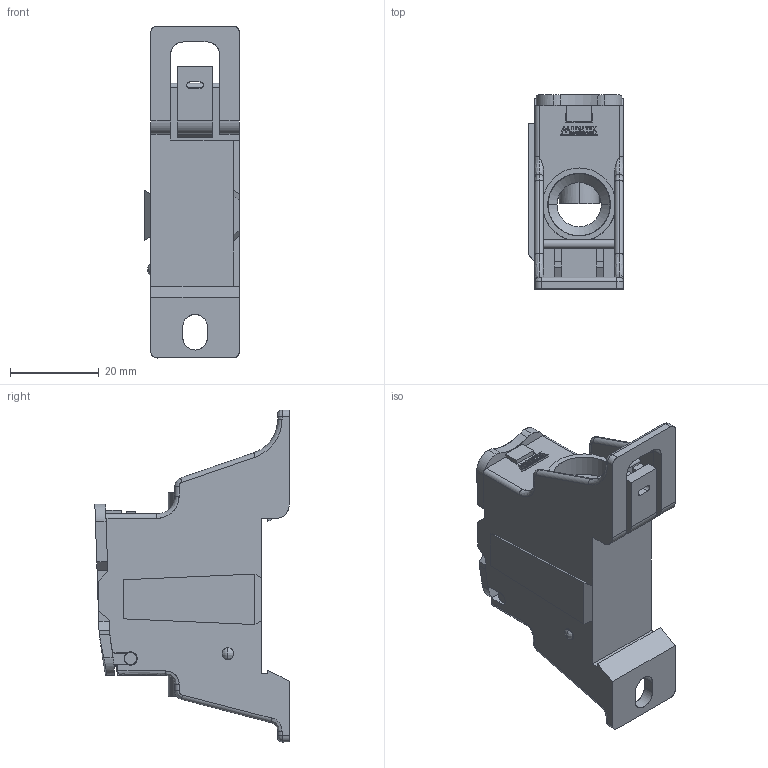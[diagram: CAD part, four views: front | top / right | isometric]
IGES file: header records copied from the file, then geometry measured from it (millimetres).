
Start section: SolidWorks IGES file using analytic representation for surfaces
Global section: file name: D:\X - Arquivos\PROEX\Empresas\P11 - METALTEX\01 - Produtos\IGES\5ª remessa\2ª etapa\BDA125-1.IGS; native system: SolidWorks 2012; preprocessor: SolidWorks 2012; author: Usuario; date: 180810.165750; units: millimetre
Bounding box: 21.4 x 43.77 x 74.8 mm (x, y, z)
Surface area: 14773.7 mm2 (no closed solid volume)
Topology: 0 solids, 0 shells, 379 faces, 3739 edges, 3739 vertices
Faces by surface type: bspline 280, revolution 99
